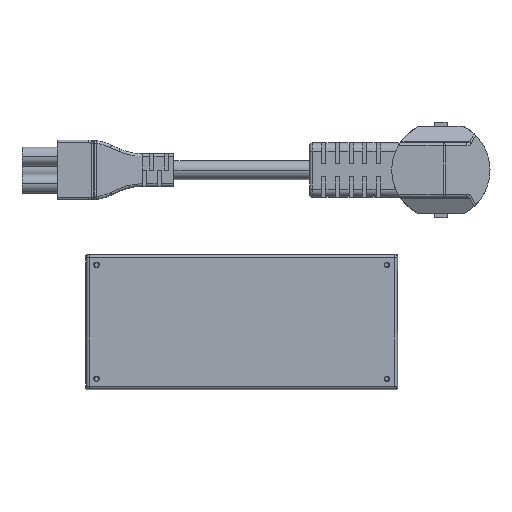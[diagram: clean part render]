
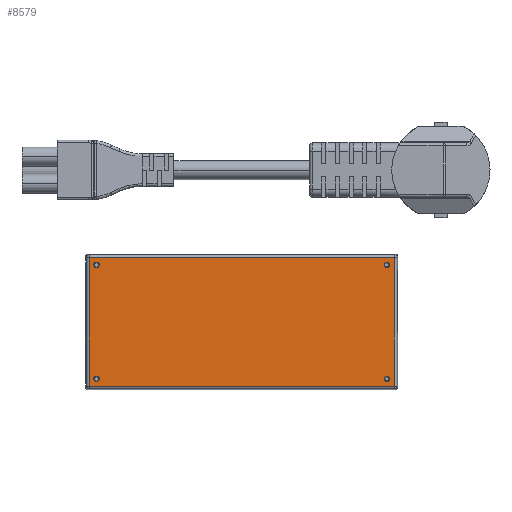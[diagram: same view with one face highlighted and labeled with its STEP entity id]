
A CAD part, front view. The second image highlights one B-rep face of the part: STEP entity #8579.
In plain terms, the highlighted planar face has unit normal (0, -1, 0).
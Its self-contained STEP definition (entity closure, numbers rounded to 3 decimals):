
#148 = CARTESIAN_POINT ( 'NONE',  ( 53.5, 0., 21. ) ) ;
#511 = CARTESIAN_POINT ( 'NONE',  ( -56.203, 0., 0. ) ) ;
#814 = EDGE_CURVE ( 'NONE', #16891, #12361, #11273, .T. ) ;
#1268 = VERTEX_POINT ( 'NONE', #12842 ) ;
#1362 = DIRECTION ( 'NONE',  ( 0., -1., 0. ) ) ;
#1415 = CIRCLE ( 'NONE', #9722, 1. ) ;
#1596 = CIRCLE ( 'NONE', #8035, 1. ) ;
#1954 = VERTEX_POINT ( 'NONE', #2809 ) ;
#1983 = EDGE_CURVE ( 'NONE', #16143, #5744, #5800, .T. ) ;
#1985 = DIRECTION ( 'NONE',  ( 0., 0., 1. ) ) ;
#2318 = DIRECTION ( 'NONE',  ( 0., -1., 0. ) ) ;
#2461 = FACE_BOUND ( 'NONE', #10993, .T. ) ;
#2518 = DIRECTION ( 'NONE',  ( 0., 0., 1. ) ) ;
#2648 = DIRECTION ( 'NONE',  ( 0., 0., 1. ) ) ;
#2718 = VERTEX_POINT ( 'NONE', #11452 ) ;
#2809 = CARTESIAN_POINT ( 'NONE',  ( 53.5, 0., 22. ) ) ;
#2831 = AXIS2_PLACEMENT_3D ( 'NONE', #9339, #2318, #10953 ) ;
#2852 = ORIENTED_EDGE ( 'NONE', *, *, #11056, .F. ) ;
#2958 = VERTEX_POINT ( 'NONE', #3651 ) ;
#3080 = DIRECTION ( 'NONE',  ( 0., 0., 1. ) ) ;
#3246 = EDGE_CURVE ( 'NONE', #2958, #18393, #1596, .T. ) ;
#3472 = EDGE_CURVE ( 'NONE', #15810, #1954, #16365, .T. ) ;
#3651 = CARTESIAN_POINT ( 'NONE',  ( 53.5, 0., -20. ) ) ;
#3919 = FACE_BOUND ( 'NONE', #7338, .T. ) ;
#3969 = CARTESIAN_POINT ( 'NONE',  ( -53.5, 0., 21. ) ) ;
#4580 = CARTESIAN_POINT ( 'NONE',  ( 57.186, 0., -23.703 ) ) ;
#4869 = AXIS2_PLACEMENT_3D ( 'NONE', #3969, #15680, #2518 ) ;
#4886 = CARTESIAN_POINT ( 'NONE',  ( -56.203, 0., 23.703 ) ) ;
#5260 = FACE_BOUND ( 'NONE', #13988, .T. ) ;
#5672 = CIRCLE ( 'NONE', #17022, 1. ) ;
#5691 = EDGE_CURVE ( 'NONE', #11566, #2718, #17736, .T. ) ;
#5744 = VERTEX_POINT ( 'NONE', #10349 ) ;
#5800 = CIRCLE ( 'NONE', #4869, 1. ) ;
#5830 = ORIENTED_EDGE ( 'NONE', *, *, #5691, .T. ) ;
#6080 = ORIENTED_EDGE ( 'NONE', *, *, #1983, .F. ) ;
#6270 = AXIS2_PLACEMENT_3D ( 'NONE', #14525, #17490, #3080 ) ;
#6339 = VECTOR ( 'NONE', #16588, 1000. ) ;
#6990 = EDGE_CURVE ( 'NONE', #1268, #18531, #15183, .T. ) ;
#7037 = CARTESIAN_POINT ( 'NONE',  ( -53.5, 0., -22. ) ) ;
#7283 = ORIENTED_EDGE ( 'NONE', *, *, #3246, .F. ) ;
#7338 = EDGE_LOOP ( 'NONE', ( #2852, #6080 ) ) ;
#7393 = ORIENTED_EDGE ( 'NONE', *, *, #16735, .F. ) ;
#7534 = CARTESIAN_POINT ( 'NONE',  ( 53.5, 0., -22. ) ) ;
#7738 = ORIENTED_EDGE ( 'NONE', *, *, #13411, .F. ) ;
#7930 = CARTESIAN_POINT ( 'NONE',  ( 53.5, 0., -21. ) ) ;
#8035 = AXIS2_PLACEMENT_3D ( 'NONE', #7930, #15265, #1985 ) ;
#8225 = DIRECTION ( 'NONE',  ( 0., 1., 0. ) ) ;
#8226 = ORIENTED_EDGE ( 'NONE', *, *, #814, .T. ) ;
#8317 = PLANE ( 'NONE',  #18601 ) ;
#8375 = VECTOR ( 'NONE', #11956, 1000. ) ;
#8579 = ADVANCED_FACE ( 'NONE', ( #9875, #12550, #2461, #5260, #3919 ), #8317, .F. ) ;
#8632 = EDGE_CURVE ( 'NONE', #12361, #11566, #15246, .T. ) ;
#9197 = LINE ( 'NONE', #17748, #18480 ) ;
#9287 = CARTESIAN_POINT ( 'NONE',  ( 56.203, 0., 23.703 ) ) ;
#9339 = CARTESIAN_POINT ( 'NONE',  ( -53.5, 0., -21. ) ) ;
#9579 = CARTESIAN_POINT ( 'NONE',  ( 0., 0., 0. ) ) ;
#9722 = AXIS2_PLACEMENT_3D ( 'NONE', #14536, #1362, #17500 ) ;
#9875 = FACE_OUTER_BOUND ( 'NONE', #18434, .T. ) ;
#9954 = CARTESIAN_POINT ( 'NONE',  ( 0., 0., 23.703 ) ) ;
#10349 = CARTESIAN_POINT ( 'NONE',  ( -53.5, 0., 22. ) ) ;
#10513 = AXIS2_PLACEMENT_3D ( 'NONE', #16954, #12433, #2648 ) ;
#10953 = DIRECTION ( 'NONE',  ( 0., 0., 1. ) ) ;
#10993 = EDGE_LOOP ( 'NONE', ( #7283, #13552 ) ) ;
#11056 = EDGE_CURVE ( 'NONE', #5744, #16143, #1415, .T. ) ;
#11273 = LINE ( 'NONE', #9954, #16900 ) ;
#11452 = CARTESIAN_POINT ( 'NONE',  ( 56.203, 0., -23.703 ) ) ;
#11566 = VERTEX_POINT ( 'NONE', #14767 ) ;
#11699 = CIRCLE ( 'NONE', #15688, 1. ) ;
#11956 = DIRECTION ( 'NONE',  ( 1., 0., 0. ) ) ;
#12361 = VERTEX_POINT ( 'NONE', #4886 ) ;
#12433 = DIRECTION ( 'NONE',  ( 0., -1., 0. ) ) ;
#12448 = ORIENTED_EDGE ( 'NONE', *, *, #14900, .T. ) ;
#12550 = FACE_BOUND ( 'NONE', #16906, .T. ) ;
#12842 = CARTESIAN_POINT ( 'NONE',  ( -53.5, 0., -20. ) ) ;
#12919 = EDGE_CURVE ( 'NONE', #18393, #2958, #11699, .T. ) ;
#12934 = CIRCLE ( 'NONE', #2831, 1. ) ;
#12946 = DIRECTION ( 'NONE',  ( 0., 0., 1. ) ) ;
#13411 = EDGE_CURVE ( 'NONE', #18531, #1268, #12934, .T. ) ;
#13421 = DIRECTION ( 'NONE',  ( 0., 0., 1. ) ) ;
#13552 = ORIENTED_EDGE ( 'NONE', *, *, #12919, .F. ) ;
#13883 = ORIENTED_EDGE ( 'NONE', *, *, #3472, .F. ) ;
#13988 = EDGE_LOOP ( 'NONE', ( #7393, #13883 ) ) ;
#14525 = CARTESIAN_POINT ( 'NONE',  ( -53.5, 0., -21. ) ) ;
#14536 = CARTESIAN_POINT ( 'NONE',  ( -53.5, 0., 21. ) ) ;
#14644 = CARTESIAN_POINT ( 'NONE',  ( -53.5, 0., 20. ) ) ;
#14767 = CARTESIAN_POINT ( 'NONE',  ( -56.203, 0., -23.703 ) ) ;
#14897 = ORIENTED_EDGE ( 'NONE', *, *, #6990, .F. ) ;
#14900 = EDGE_CURVE ( 'NONE', #2718, #16891, #9197, .T. ) ;
#15131 = CARTESIAN_POINT ( 'NONE',  ( 53.5, 0., -21. ) ) ;
#15183 = CIRCLE ( 'NONE', #6270, 1. ) ;
#15246 = LINE ( 'NONE', #511, #6339 ) ;
#15265 = DIRECTION ( 'NONE',  ( 0., -1., 0. ) ) ;
#15680 = DIRECTION ( 'NONE',  ( 0., -1., 0. ) ) ;
#15688 = AXIS2_PLACEMENT_3D ( 'NONE', #15131, #18085, #16670 ) ;
#15810 = VERTEX_POINT ( 'NONE', #15843 ) ;
#15814 = DIRECTION ( 'NONE',  ( -1., 0., 0. ) ) ;
#15843 = CARTESIAN_POINT ( 'NONE',  ( 53.5, 0., 20. ) ) ;
#15863 = ORIENTED_EDGE ( 'NONE', *, *, #8632, .T. ) ;
#16143 = VERTEX_POINT ( 'NONE', #14644 ) ;
#16365 = CIRCLE ( 'NONE', #10513, 1. ) ;
#16588 = DIRECTION ( 'NONE',  ( 0., 0., -1. ) ) ;
#16670 = DIRECTION ( 'NONE',  ( 0., 0., 1. ) ) ;
#16735 = EDGE_CURVE ( 'NONE', #1954, #15810, #5672, .T. ) ;
#16891 = VERTEX_POINT ( 'NONE', #9287 ) ;
#16900 = VECTOR ( 'NONE', #15814, 1000. ) ;
#16906 = EDGE_LOOP ( 'NONE', ( #14897, #7738 ) ) ;
#16954 = CARTESIAN_POINT ( 'NONE',  ( 53.5, 0., 21. ) ) ;
#16981 = DIRECTION ( 'NONE',  ( 0., 0., 1. ) ) ;
#17022 = AXIS2_PLACEMENT_3D ( 'NONE', #148, #17467, #12946 ) ;
#17467 = DIRECTION ( 'NONE',  ( 0., -1., 0. ) ) ;
#17490 = DIRECTION ( 'NONE',  ( 0., -1., 0. ) ) ;
#17500 = DIRECTION ( 'NONE',  ( 0., 0., 1. ) ) ;
#17736 = LINE ( 'NONE', #4580, #8375 ) ;
#17748 = CARTESIAN_POINT ( 'NONE',  ( 56.203, 0., 24.686 ) ) ;
#18085 = DIRECTION ( 'NONE',  ( 0., -1., 0. ) ) ;
#18393 = VERTEX_POINT ( 'NONE', #7534 ) ;
#18434 = EDGE_LOOP ( 'NONE', ( #5830, #12448, #8226, #15863 ) ) ;
#18480 = VECTOR ( 'NONE', #13421, 1000. ) ;
#18531 = VERTEX_POINT ( 'NONE', #7037 ) ;
#18601 = AXIS2_PLACEMENT_3D ( 'NONE', #9579, #8225, #16981 ) ;
